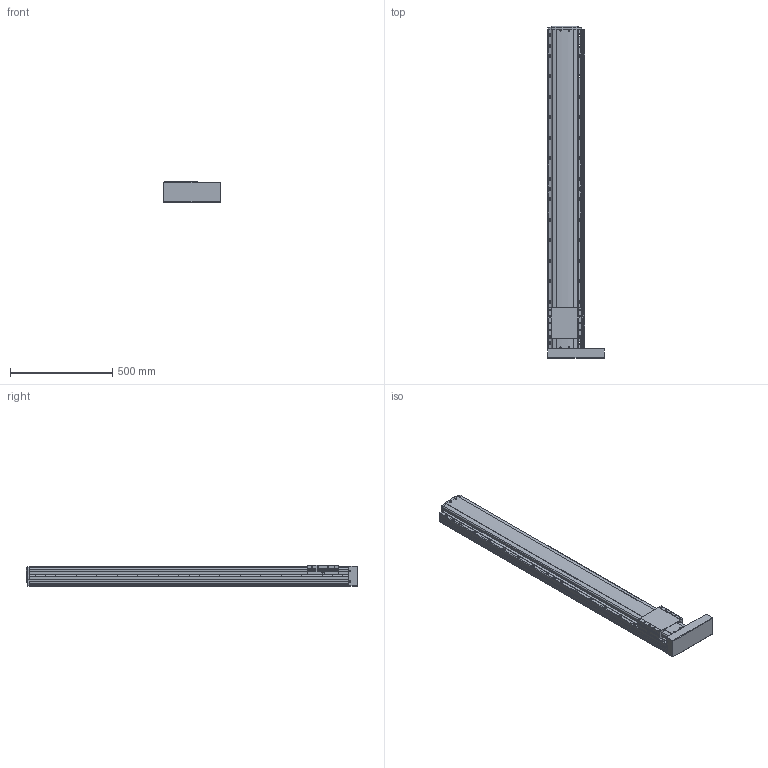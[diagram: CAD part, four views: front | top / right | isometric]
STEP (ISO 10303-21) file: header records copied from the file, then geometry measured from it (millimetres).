
FILE_DESCRIPTION(('STEP AP214'),'1');
FILE_NAME('Z:/Web/3D/PSA165/STP/PSA165-1300 (3D)/PSA165ㅁㅁ-1300PR+3SR.stp','2014-06-24T10:42:23',(' '),(' '),'Spatial InterOp 3D',' ',' ');
FILE_SCHEMA(('automotive_design'));
Length unit declared in the file: millimetre
Products named in the file (41): 스크루 : Round - M4.0 x 12.0; RRCV-PA160; BASE; 스크루 : Round - M4.0 x 10.0; RN15; Screw 20; SLIDE; FRCV; MTPL; 스크루 : Round - M3.0 x 6.0; M3.0 x 6.0; SRL-16x17-360L; SGD-SAN150; EE-SX674; SBK-SX674-352; BHCS M4.0 x 10.0
Bounding box: 281.93 x 1620.8 x 104 mm (x, y, z)
Volume: 22913631.8 mm3; surface area: 1542371.3 mm2
Topology: 41 solids, 41 shells, 2668 faces, 7165 edges, 4589 vertices
Faces by surface type: plane 1475, cylinder 847, cone 241, sphere 64, bspline 25, torus 16
Entity records: 108433 total; most frequent: CARTESIAN_POINT 18913, DIRECTION 14263, ORIENTED_EDGE 13990, EDGE_CURVE 6995, AXIS2_PLACEMENT_3D 4833, LINE 4597, VECTOR 4597, VERTEX_POINT 4589
